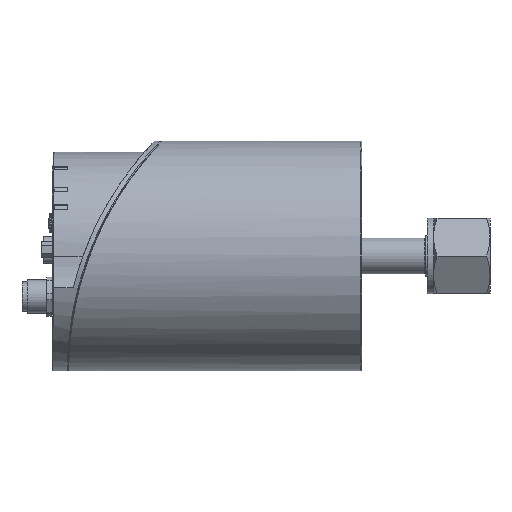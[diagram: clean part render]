
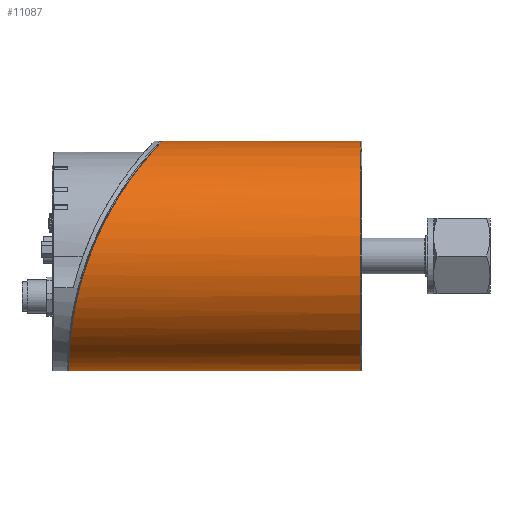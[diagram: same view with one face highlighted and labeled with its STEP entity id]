
A CAD part, left-side view. The second image highlights one B-rep face of the part: STEP entity #11087.
In plain terms, the highlighted cylindrical face has radius 41 mm (diameter 82 mm), a full revolution.
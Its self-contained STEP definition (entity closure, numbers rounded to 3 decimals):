
#1944=B_SPLINE_CURVE_WITH_KNOTS('',3,(#18762,#18763,#18764,#18765,#18766,
#18767,#18768,#18769,#18770,#18771,#18772,#18773,#18774,#18775,#18776,#18777,
#18778,#18779,#18780,#18781,#18782,#18783,#18784,#18785,#18786,#18787,#18788,
#18789,#18790,#18791,#18792,#18793,#18794,#18795),.UNSPECIFIED.,.T.,.F.,
(4,1,1,1,1,1,1,1,1,1,1,1,1,1,1,1,1,1,1,1,1,1,1,1,1,1,1,1,1,1,1,4),(-26.603,
-26.128,-25.653,-25.178,-24.703,
-23.753,-22.803,-22.169,-21.536,
-20.269,-19.636,-19.002,-17.735,
-16.469,-15.202,-13.935,-12.668,
-11.401,-10.135,-8.868,-7.601,
-6.967,-6.334,-5.067,-4.434,
-3.8,-2.85,-1.9,-1.425,
-0.95,-0.475,0.),
 .UNSPECIFIED.);
#2374=FACE_BOUND('',#3535,.T.);
#2817=FACE_OUTER_BOUND('',#3534,.T.);
#3534=EDGE_LOOP('',(#8398));
#3535=EDGE_LOOP('',(#8399));
#4200=CIRCLE('',#12015,41.);
#4951=VERTEX_POINT('',#18722);
#4953=VERTEX_POINT('',#18797);
#6219=EDGE_CURVE('',#4951,#4951,#1944,.T.);
#6220=EDGE_CURVE('',#4953,#4953,#4200,.T.);
#8398=ORIENTED_EDGE('',*,*,#6219,.F.);
#8399=ORIENTED_EDGE('',*,*,#6220,.F.);
#9997=CYLINDRICAL_SURFACE('',#12014,41.);
#11087=ADVANCED_FACE('',(#2817,#2374),#9997,.T.);
#12014=AXIS2_PLACEMENT_3D('',#18796,#14174,#14175);
#12015=AXIS2_PLACEMENT_3D('',#18798,#14176,#14177);
#14174=DIRECTION('center_axis',(0.,-1.,0.));
#14175=DIRECTION('ref_axis',(-1.,0.,0.));
#14176=DIRECTION('center_axis',(0.,-1.,0.));
#14177=DIRECTION('ref_axis',(-1.,0.,0.));
#18722=CARTESIAN_POINT('',(0.,2.167,41.));
#18762=CARTESIAN_POINT('Ctrl Pts',(0.,2.167,
41.));
#18763=CARTESIAN_POINT('Ctrl Pts',(1.056,2.167,41.));
#18764=CARTESIAN_POINT('Ctrl Pts',(3.187,2.247,40.918));
#18765=CARTESIAN_POINT('Ctrl Pts',(6.597,2.632,40.522));
#18766=CARTESIAN_POINT('Ctrl Pts',(10.654,3.442,39.679));
#18767=CARTESIAN_POINT('Ctrl Pts',(16.678,5.294,37.695));
#18768=CARTESIAN_POINT('Ctrl Pts',(23.855,8.718,33.825));
#18769=CARTESIAN_POINT('Ctrl Pts',(30.337,13.255,27.976));
#18770=CARTESIAN_POINT('Ctrl Pts',(34.786,17.282,22.001));
#18771=CARTESIAN_POINT('Ctrl Pts',(38.589,21.583,14.817));
#18772=CARTESIAN_POINT('Ctrl Pts',(40.685,25.327,7.252));
#18773=CARTESIAN_POINT('Ctrl Pts',(41.144,28.484,-0.697));
#18774=CARTESIAN_POINT('Ctrl Pts',(40.4,31.22,-8.866));
#18775=CARTESIAN_POINT('Ctrl Pts',(37.12,33.67,-18.921));
#18776=CARTESIAN_POINT('Ctrl Pts',(29.505,35.13,-29.441));
#18777=CARTESIAN_POINT('Ctrl Pts',(18.939,35.573,-37.133));
#18778=CARTESIAN_POINT('Ctrl Pts',(6.527,35.598,-41.167));
#18779=CARTESIAN_POINT('Ctrl Pts',(-6.528,35.598,-41.167));
#18780=CARTESIAN_POINT('Ctrl Pts',(-18.938,35.573,-37.133));
#18781=CARTESIAN_POINT('Ctrl Pts',(-29.507,35.13,-29.44));
#18782=CARTESIAN_POINT('Ctrl Pts',(-37.118,33.67,-18.923));
#18783=CARTESIAN_POINT('Ctrl Pts',(-40.401,31.221,-8.866));
#18784=CARTESIAN_POINT('Ctrl Pts',(-41.144,28.484,-0.697));
#18785=CARTESIAN_POINT('Ctrl Pts',(-40.685,25.327,7.252));
#18786=CARTESIAN_POINT('Ctrl Pts',(-38.588,21.583,14.817));
#18787=CARTESIAN_POINT('Ctrl Pts',(-34.786,17.282,22.001));
#18788=CARTESIAN_POINT('Ctrl Pts',(-30.337,13.255,27.976));
#18789=CARTESIAN_POINT('Ctrl Pts',(-23.855,8.718,33.825));
#18790=CARTESIAN_POINT('Ctrl Pts',(-16.678,5.294,37.695));
#18791=CARTESIAN_POINT('Ctrl Pts',(-10.654,3.442,39.679));
#18792=CARTESIAN_POINT('Ctrl Pts',(-6.597,2.632,40.522));
#18793=CARTESIAN_POINT('Ctrl Pts',(-3.187,2.247,40.918));
#18794=CARTESIAN_POINT('Ctrl Pts',(-1.056,2.167,41.));
#18795=CARTESIAN_POINT('Ctrl Pts',(0.,2.167,
41.));
#18796=CARTESIAN_POINT('Origin',(0.,40.8,
0.));
#18797=CARTESIAN_POINT('',(41.,-68.6,0.));
#18798=CARTESIAN_POINT('Origin',(0.,-68.6,
0.));
